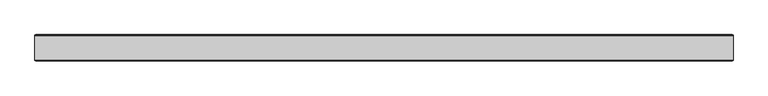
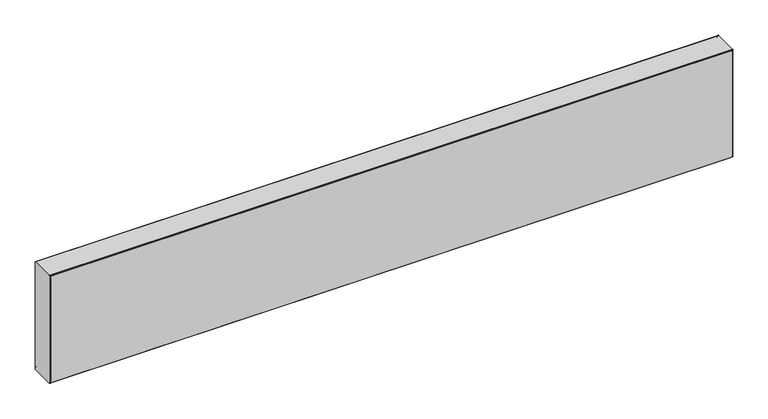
"""IFC4 building model written with IfcOpenShell, lengths in millimetres: proxy geometry, EVRA CV Д : 21-300-1800."""

from ifc_helpers import new_model, si_unit, point, frame, frame_2d, origin, place, context, project, spatial, polyline, circle_curve, trimmed, segment, composite_curve, outline, extrude, source, transform, mapped, element, save


def mechanical_equipment_6df30eec(model_context):
    return source(origin(), model_context, "Body", "SweptSolid", [
        extrude(outline(composite_curve([segment(polyline([(398.0, 1093.0), (398.0, -693.0)]), True, "CONTINUOUS"), segment(trimmed(circle_curve(frame_2d((393.0, -693.0)), 5.0), [point((398.0, -693.0))], [point((393.0, -698.0))], False, "CARTESIAN"), True, "CONTINUOUS"), segment(polyline([(393.0, -698.0), (107.0, -698.0)]), True, "CONTINUOUS"), segment(trimmed(circle_curve(frame_2d((107.0, -693.0)), 5.0), [point((107.0, -698.0))], [point((102.0, -693.0))], False, "CARTESIAN"), True, "CONTINUOUS"), segment(polyline([(102.0, -693.0), (102.0, 1093.0)]), True, "CONTINUOUS"), segment(trimmed(circle_curve(frame_2d((107.0, 1093.0)), 5.0), [point((102.0, 1093.0))], [point((107.0, 1098.0))], False, "CARTESIAN"), True, "CONTINUOUS"), segment(polyline([(107.0, 1098.0), (393.0, 1098.0)]), True, "CONTINUOUS"), segment(trimmed(circle_curve(frame_2d((393.0, 1093.0)), 5.0), [point((393.0, 1098.0))], [point((398.0, 1093.0))], False, "CARTESIAN"), True, "CONTINUOUS")], self_intersect=False)), frame((0.0, 11.4631102, 0.0), z_axis=(0.0, 1.0, 0.0), x_axis=(0.0, 0.0, 1.0)), (0.0, 0.0, 1.0), 1.0),
        extrude(outline(composite_curve([segment(polyline([(398.0, 1093.0), (398.0, -693.0)]), True, "CONTINUOUS"), segment(trimmed(circle_curve(frame_2d((393.0, -693.0)), 5.0), [point((398.0, -693.0))], [point((393.0, -698.0))], False, "CARTESIAN"), True, "CONTINUOUS"), segment(polyline([(393.0, -698.0), (107.0, -698.0)]), True, "CONTINUOUS"), segment(trimmed(circle_curve(frame_2d((107.0, -693.0)), 5.0), [point((107.0, -698.0))], [point((102.0, -693.0))], False, "CARTESIAN"), True, "CONTINUOUS"), segment(polyline([(102.0, -693.0), (102.0, 1093.0)]), True, "CONTINUOUS"), segment(trimmed(circle_curve(frame_2d((107.0, 1093.0)), 5.0), [point((102.0, 1093.0))], [point((107.0, 1098.0))], False, "CARTESIAN"), True, "CONTINUOUS"), segment(polyline([(107.0, 1098.0), (393.0, 1098.0)]), True, "CONTINUOUS"), segment(trimmed(circle_curve(frame_2d((393.0, 1093.0)), 5.0), [point((393.0, 1098.0))], [point((398.0, 1093.0))], False, "CARTESIAN"), True, "CONTINUOUS")], self_intersect=False)), frame((0.0, -55.5368898, 0.0), z_axis=(0.0, 1.0, 0.0), x_axis=(0.0, 0.0, 1.0)), (0.0, 0.0, 1.0), 1.0),
        extrude(outline(composite_curve([segment(trimmed(circle_curve(frame_2d((9.4631102, 398.0)), 2.0), [point((9.4631102, 400.0))], [point((11.4631102, 398.0))], False, "CARTESIAN"), True, "CONTINUOUS"), segment(polyline([(11.4631102, 398.0), (11.4631102, 102.0)]), True, "CONTINUOUS"), segment(trimmed(circle_curve(frame_2d((9.4631102, 102.0)), 2.0), [point((11.4631102, 102.0))], [point((9.4631102, 100.0))], False, "CARTESIAN"), True, "CONTINUOUS"), segment(polyline([(9.4631102, 100.0), (-52.5368898, 100.0)]), True, "CONTINUOUS"), segment(trimmed(circle_curve(frame_2d((-52.5368898, 102.0)), 2.0), [point((-52.5368898, 100.0))], [point((-54.5368898, 102.0))], False, "CARTESIAN"), True, "CONTINUOUS"), segment(polyline([(-54.5368898, 102.0), (-54.5368898, 398.0)]), True, "CONTINUOUS"), segment(trimmed(circle_curve(frame_2d((-52.5368898, 398.0)), 2.0), [point((-54.5368898, 398.0))], [point((-52.5368898, 400.0))], False, "CARTESIAN"), True, "CONTINUOUS"), segment(polyline([(-52.5368898, 400.0), (9.4631102, 400.0)]), True, "CONTINUOUS")], self_intersect=False)), frame((-700.0, 0.0, 0.0), z_axis=(1.0, 0.0, 0.0), x_axis=(0.0, 1.0, 0.0)), (0.0, 0.0, 1.0), 1800.0),
    ])


if __name__ == "__main__":
    model = new_model("IFC4")
    model_context = context("Model", 3, world=origin())
    ifc_project = project(units=[si_unit("LENGTHUNIT", "METRE", prefix="MILLI")], contexts=[model_context])
    site = spatial("IfcSite", under=ifc_project)
    building = spatial("IfcBuilding", under=site)
    placement = place(None, origin())
    mechanical_equipment_shape = mechanical_equipment_6df30eec(model_context)
    element("IfcBuildingElementProxy", 1, Name="EVRA CV Д : 21-300-1800", ObjectType="EVRA CV Д : 21-300-1800", at=placement, inside=building, context=model_context, shape_type="MappedRepresentation", body=[
        mapped(mechanical_equipment_shape, transform((0.0, 0.0, 0.0), x_axis=(1.0, 0.0, 0.0), y_axis=(0.0, 1.0, 0.0), z_axis=(0.0, 0.0, 1.0))),
    ])
    save(model, "model.ifc")
